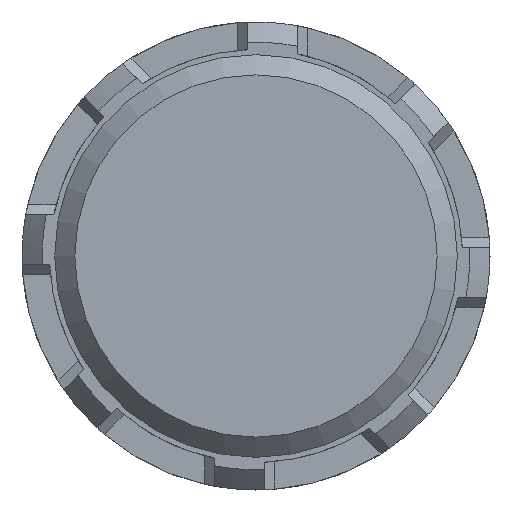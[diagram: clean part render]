
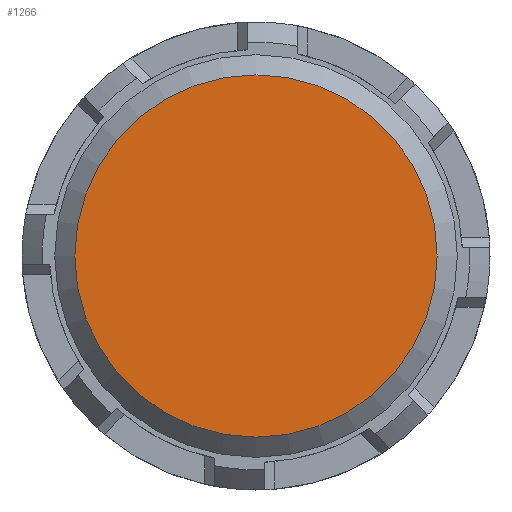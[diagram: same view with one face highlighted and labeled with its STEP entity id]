
A CAD part, front view. The second image highlights one B-rep face of the part: STEP entity #1266.
In plain terms, the highlighted planar face has unit normal (0, -1, 0).
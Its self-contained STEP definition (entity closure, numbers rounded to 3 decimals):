
#99=CIRCLE('',#1431,1.8);
#173=FACE_OUTER_BOUND('',#241,.T.);
#241=EDGE_LOOP('',(#1093));
#572=VERTEX_POINT('',#2238);
#757=EDGE_CURVE('',#572,#572,#99,.T.);
#1093=ORIENTED_EDGE('',*,*,#757,.F.);
#1205=PLANE('',#1434);
#1266=ADVANCED_FACE('',(#173),#1205,.T.);
#1431=AXIS2_PLACEMENT_3D('',#2239,#1804,#1805);
#1434=AXIS2_PLACEMENT_3D('',#2245,#1811,#1812);
#1804=DIRECTION('center_axis',(0.,1.,0.));
#1805=DIRECTION('ref_axis',(-1.,0.,0.));
#1811=DIRECTION('center_axis',(0.,-1.,0.));
#1812=DIRECTION('ref_axis',(0.,0.,-1.));
#2238=CARTESIAN_POINT('',(1.8,0.,0.));
#2239=CARTESIAN_POINT('Origin',(0.,0.,0.));
#2245=CARTESIAN_POINT('Origin',(0.,0.,0.));
